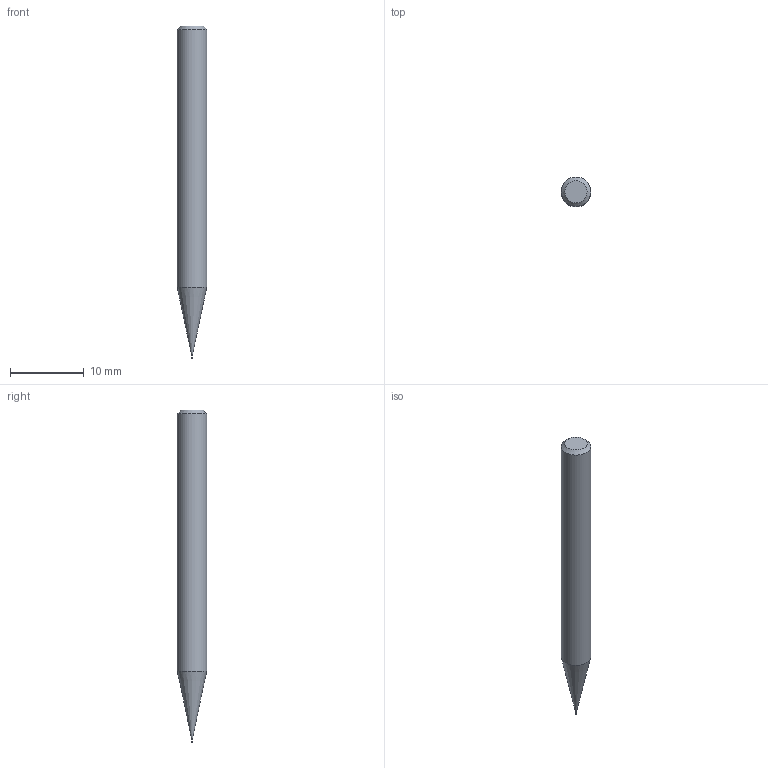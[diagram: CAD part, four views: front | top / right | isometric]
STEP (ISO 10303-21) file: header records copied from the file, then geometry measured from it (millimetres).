
FILE_DESCRIPTION((''),'2;1');
FILE_NAME('C:\Users\nsx150\AppData\Local\Temp\Mastercam 2021\3SYKECWX22\TEMP.step','2021-04-22T09:44:09',(''),(''),'STEP Write','Mastercam 2021 ... CNC Software, Inc.','');
FILE_SCHEMA(('AUTOMOTIVE_DESIGN'));
Length unit declared in the file: millimetre
Products named in the file (1): None
Bounding box: 4 x 4 x 45 mm (x, y, z)
Volume: 482.9 mm3; surface area: 514.1 mm2
Topology: 2 solids, 2 shells, 10 faces, 14 edges, 8 vertices
Faces by surface type: plane 4, cylinder 3, cone 2, torus 1
Full cylindrical faces by diameter (mm): 0.135 x1, 0.15 x1, 4 x1
Entity records: 232 total; most frequent: DIRECTION 40, CARTESIAN_POINT 28, AXIS2_PLACEMENT_3D 20, ORIENTED_EDGE 16, EDGE_LOOP 16, STYLED_ITEM 13, ADVANCED_FACE 10, FACE_BOUND 10
